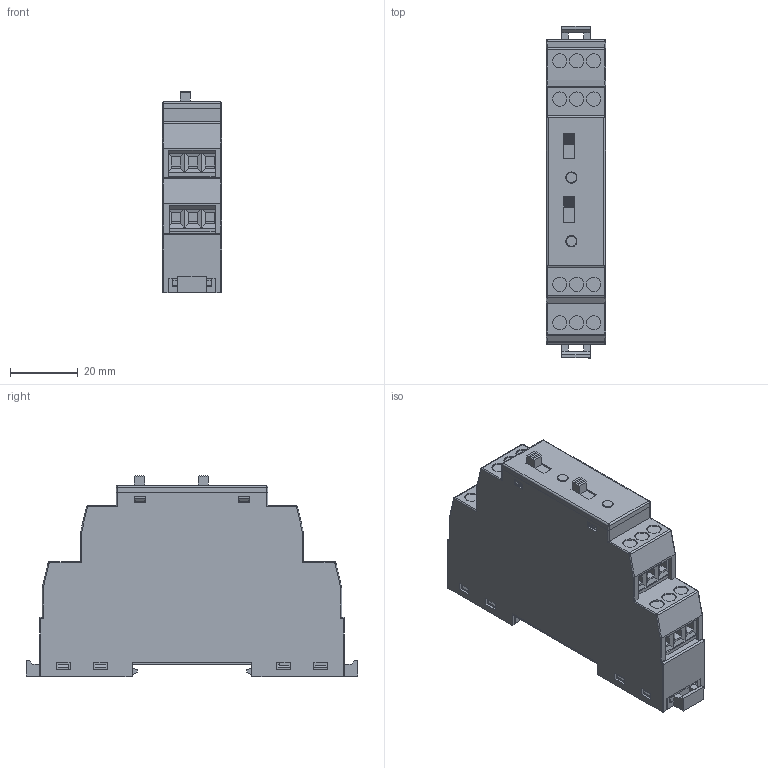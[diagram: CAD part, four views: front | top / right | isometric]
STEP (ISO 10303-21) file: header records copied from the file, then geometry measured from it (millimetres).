
FILE_DESCRIPTION (( 'STEP AP214' ), '1' );
FILE_NAME ('CMA-D2.STEP', '2024-12-12T08:21:03', ( '' ), ( '' ), 'SwSTEP 2.0', 'SolidWorks 2024', '' );
FILE_SCHEMA (( 'AUTOMOTIVE_DESIGN' ));
Length unit declared in the file: millimetre
Products named in the file (1): CMA-D2
Bounding box: 17.5 x 98 x 59.45 mm (x, y, z)
Volume: 71856.6 mm3; surface area: 19718.7 mm2
Topology: 1 solids, 1 shells, 1027 faces, 2630 edges, 1614 vertices
Faces by surface type: plane 689, bspline 208, cylinder 108, torus 12, cone 8, sphere 2
Entity records: 33512 total; most frequent: CARTESIAN_POINT 9231, ORIENTED_EDGE 5250, DIRECTION 4777, EDGE_CURVE 2625, LINE 1981, VECTOR 1981, VERTEX_POINT 1614, AXIS2_PLACEMENT_3D 1398
